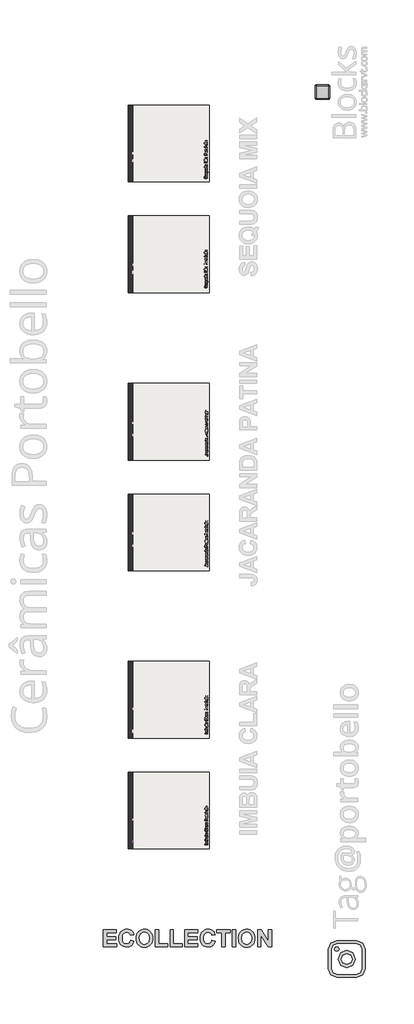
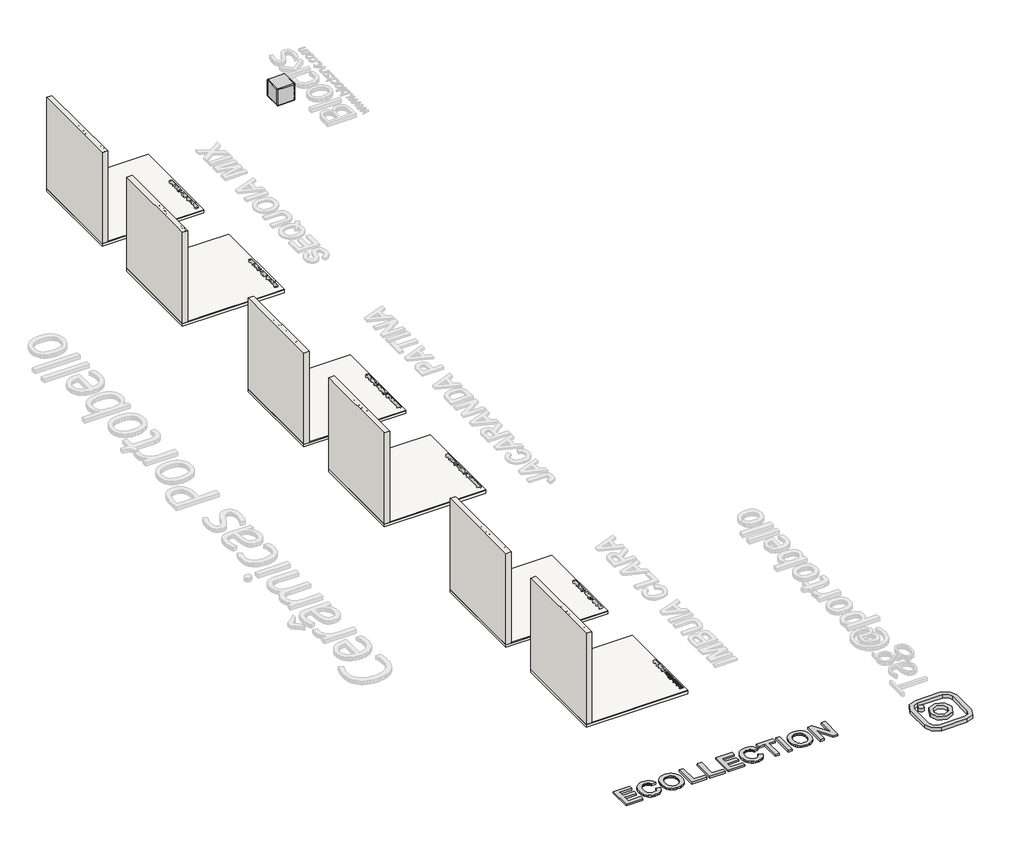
# One storey, part 1 of 10: 12 slabs, 6 walls, 4 proxies, 1 furniture element.
"""IFC4 building model written with IfcOpenShell, lengths in millimetres."""

from ifc_helpers import new_model, si_unit, frame, origin, origin_with_axes, place, context, project, spatial, polyline, outline, extrude, transform, mapped, element, save
from components import generic_models_d67f6705, branco_22256ad2

model = new_model("IFC4")

# Units and contexts
model_context = context("Model", 3, world=origin())
ifc_project = project(units=[si_unit("LENGTHUNIT", "METRE", prefix="MILLI")], contexts=[model_context])

# Site, building, storey
site = spatial("IfcSite", under=ifc_project)
building = spatial("IfcBuilding", under=site)
storey = spatial("IfcBuildingStorey", under=building, Name="PORTOBELLO - SHOWROOM", Elevation=0.0)

# Proxies
placement = place(None, origin())
generic_models_shape = generic_models_d67f6705(model_context)
element("IfcBuildingElementProxy", 1, Name="Blks_Instagram1 : Único 2", ObjectType="Blks_Instagram1 : Único 2", at=placement, inside=storey, context=model_context, shape_type="MappedRepresentation", body=[
    mapped(generic_models_shape, transform((159092.847463, -13112.6258907, 0.0), x_axis=(-1.0, 0.0, 0.0), y_axis=(0.0, -1.0, 0.0), z_axis=(0.0, 0.0, 1.0))),
])
element("IfcBuildingElementProxy", 2, Name="10mm Arial", ObjectType="10mm Arial", at=placement, inside=storey, context=model_context, shape_type="SweptSolid", body=[
    extrude(outline(polyline([(151563.1527225, -9058.0727084), (151563.1527225, -9070.6297471), (151543.1527225, -9070.6297471), (151543.1527225, -9058.0727084), (151563.1527225, -9058.0727084)])), frame((0.0, 0.0, 2548.7267943), z_axis=(0.0, 0.0, 1.0), x_axis=(1.0, 0.0, 0.0)), (0.0, 0.0, 1.0), 100.4563101),
    extrude(outline(polyline([(-9034.5282607, 2548.7267943), (-9034.5282607, 2622.4993971), (-9021.9712219, 2622.4993971), (-9021.9712219, 2610.3592912), (-9013.3382578, 2620.3043678), (-9001.0509991, 2624.0690269), (-8988.4694349, 2620.2307914), (-8981.5532534, 2609.4763744), (-8971.7553296, 2620.4208638), (-8959.3822318, 2624.0690269), (-8949.9429929, 2622.5515137), (-8942.9624321, 2617.998974), (-8938.6490157, 2610.2887805), (-8937.2112102, 2599.2983059), (-8937.2112102, 2548.7267943), (-8949.768249, 2548.7267943), (-8949.768249, 2593.9027033), (-8950.9332087, 2604.3873402), (-8955.1515889, 2609.5499508), (-8962.3252878, 2611.5119881), (-8974.6738601, 2606.4842675), (-8978.3618771, 2599.9420994), (-8979.5912161, 2590.3710362), (-8979.5912161, 2548.7267943), (-8992.1482548, 2548.7267943), (-8992.1482548, 2595.3006549), (-8995.0545226, 2607.4652862), (-9004.5826663, 2611.5119881), (-9013.877818, 2608.8141868), (-9020.0582355, 2600.9169867), (-9021.9712219, 2585.9319267), (-9021.9712219, 2548.7267943), (-9034.5282607, 2548.7267943)])), frame((151543.1527225, 0.0, 0.0), z_axis=(1.0, 0.0, 0.0), x_axis=(0.0, 1.0, 0.0)), (0.0, 0.0, 1.0), 20.0),
    extrude(outline(polyline([(-8905.8186133, 2548.7267943), (-8918.3756521, 2548.7267943), (-8918.3756521, 2649.1831044), (-8905.8186133, 2649.1831044), (-8905.8186133, 2611.9289211), (-8897.0262336, 2621.0340004), (-8886.1001384, 2624.0690269), (-8873.5185741, 2621.3344374), (-8863.7574385, 2613.6457037), (-8857.760962, 2601.6895389), (-8855.5904582, 2586.7167417), (-8857.8376041, 2569.9535854), (-8864.5790416, 2557.4823858), (-8874.4720016, 2549.7384698), (-8886.1737148, 2547.1571645), (-8897.3389333, 2550.4864965), (-8905.8186133, 2560.4744927), (-8905.8186133, 2548.7267943)]), holes=[polyline([(-8905.8186133, 2586.1281305), (-8902.385048, 2568.5678966), (-8895.8060917, 2561.9276266), (-8887.2528353, 2559.7142032), (-8880.00556, 2561.3451467), (-8873.8128797, 2566.2379773), (-8869.5638427, 2574.362038), (-8868.147497, 2585.6866721), (-8869.5055947, 2597.1768531), (-8873.5798878, 2605.2089433), (-8879.57943, 2609.9362269), (-8886.713275, 2611.5119881), (-8893.9605503, 2609.8810446), (-8900.1532306, 2604.9882141), (-8904.4022676, 2597.0113062), (-8905.8186133, 2586.1281305)])]), frame((151543.1527225, 0.0, 0.0), z_axis=(1.0, 0.0, 0.0), x_axis=(0.0, 1.0, 0.0)), (0.0, 0.0, 1.0), 20.0),
    extrude(outline(polyline([(-8794.3748942, 2548.7267943), (-8794.3748942, 2561.4064604), (-8804.2096062, 2550.7194884), (-8817.0364251, 2547.1571645), (-8828.8454372, 2549.658762), (-8836.987892, 2555.9372814), (-8840.7280256, 2565.1833822), (-8841.4637896, 2576.8575042), (-8841.4637896, 2622.4993971), (-8828.9067509, 2622.4993971), (-8828.9067509, 2582.7681416), (-8828.1464614, 2569.9658482), (-8823.1800545, 2562.4487927), (-8813.823589, 2559.7142032), (-8803.3389522, 2562.5101064), (-8796.4105079, 2570.1252637), (-8794.3748942, 2584.1170422), (-8794.3748942, 2622.4993971), (-8781.8178555, 2622.4993971), (-8781.8178555, 2548.7267943), (-8794.3748942, 2548.7267943)])), frame((151543.1527225, 0.0, 0.0), z_axis=(1.0, 0.0, 0.0), x_axis=(0.0, 1.0, 0.0)), (0.0, 0.0, 1.0), 20.0),
    extrude(outline(polyline([(151563.1527225, -8751.9948884), (151563.1527225, -8764.5519272), (151543.1527225, -8764.5519272), (151543.1527225, -8751.9948884), (151563.1527225, -8751.9948884)])), frame((0.0, 0.0, 2636.6260657), z_axis=(0.0, 0.0, 1.0), x_axis=(1.0, 0.0, 0.0)), (0.0, 0.0, 1.0), 12.5570388),
    extrude(outline(polyline([(151563.1527225, -8751.9948884), (151563.1527225, -8764.5519272), (151543.1527225, -8764.5519272), (151543.1527225, -8751.9948884), (151563.1527225, -8751.9948884)])), frame((0.0, 0.0, 2548.7267943), z_axis=(0.0, 0.0, 1.0), x_axis=(1.0, 0.0, 0.0)), (0.0, 0.0, 1.0), 73.7726028),
    extrude(outline(polyline([(-8686.0704349, 2558.1445734), (-8698.2473289, 2549.6342366), (-8711.6995472, 2547.1571645), (-8722.1933811, 2548.6470865), (-8729.9342314, 2553.1168528), (-8734.7075003, 2559.9042756), (-8736.2985899, 2568.3471674), (-8733.8950942, 2578.2799812), (-8727.5797866, 2585.4904683), (-8718.787407, 2589.6107467), (-8707.9226254, 2591.4992076), (-8686.1440113, 2595.8156897), (-8686.0704349, 2598.6115928), (-8689.5285256, 2607.8822191), (-8703.4099396, 2611.5119881), (-8716.1141311, 2609.0962297), (-8722.1719213, 2600.5245792), (-8734.7289601, 2602.0942091), (-8729.2965693, 2614.3569422), (-8718.3582113, 2621.5429039), (-8701.7912588, 2624.0690269), (-8686.5732069, 2621.8372095), (-8677.977031, 2616.2331404), (-8674.1265327, 2607.7105409), (-8673.5133961, 2596.7231319), (-8673.5133961, 2581.1004099), (-8672.875734, 2559.2850076), (-8670.3741364, 2548.7267943), (-8682.9311752, 2548.7267943), (-8686.0704349, 2558.1445734)]), holes=[polyline([(-8686.0704349, 2583.2586509), (-8706.3284701, 2579.4081527), (-8717.131938, 2577.372539), (-8722.0247685, 2574.061601), (-8723.7415512, 2569.2300842), (-8720.0014175, 2562.43653), (-8709.0262714, 2559.7142032), (-8696.3220798, 2562.7185728), (-8688.130574, 2569.9903736), (-8686.1440113, 2579.7024583), (-8686.0704349, 2583.2586509)])]), frame((151543.1527225, 0.0, 0.0), z_axis=(1.0, 0.0, 0.0), x_axis=(0.0, 1.0, 0.0)), (0.0, 0.0, 1.0), 20.0),
    extrude(outline(polyline([(-8544.8037487, 2584.4358733), (-8532.2467099, 2581.1985117), (-8538.0408514, 2566.5660054), (-8547.133668, 2555.8759677), (-8559.0775701, 2549.3368653), (-8573.4249679, 2547.1571645), (-8587.9900293, 2548.8065021), (-8599.5568523, 2553.7545149), (-8608.4228084, 2561.8295247), (-8614.8852688, 2572.8598532), (-8620.1459813, 2599.7152388), (-8618.6591249, 2614.3630736), (-8614.1985557, 2627.0120829), (-8606.9972657, 2637.2606621), (-8597.2882467, 2644.7072068), (-8585.7735402, 2649.2413524), (-8573.1551878, 2650.7527343), (-8559.3872041, 2648.7968284), (-8548.0043221, 2642.9291105), (-8539.3621609, 2633.5113315), (-8533.8163398, 2620.9052418), (-8546.3733786, 2617.9131349), (-8556.6740744, 2633.3519159), (-8573.6456971, 2638.1956955), (-8593.2905957, 2632.8246184), (-8604.3883692, 2618.4036442), (-8607.5889426, 2599.7397643), (-8603.799758, 2578.108303), (-8592.0030087, 2564.2882027), (-8574.6757667, 2559.7142032), (-8564.1941955, 2561.2715703), (-8555.4600638, 2565.9436717), (-8548.8657791, 2573.6814563), (-8544.8037487, 2584.4358733)])), frame((151543.1527225, 0.0, 0.0), z_axis=(1.0, 0.0, 0.0), x_axis=(0.0, 1.0, 0.0)), (0.0, 0.0, 1.0), 20.0),
    extrude(outline(polyline([(151563.1527225, -8503.9933727), (151563.1527225, -8516.5504115), (151543.1527225, -8516.5504115), (151543.1527225, -8503.9933727), (151563.1527225, -8503.9933727)])), frame((0.0, 0.0, 2548.7267943), z_axis=(0.0, 0.0, 1.0), x_axis=(1.0, 0.0, 0.0)), (0.0, 0.0, 1.0), 100.4563101),
    extrude(outline(polyline([(-8438.0689192, 2558.1445734), (-8450.2458132, 2549.6342366), (-8463.6980315, 2547.1571645), (-8474.1918654, 2548.6470865), (-8481.9327157, 2553.1168528), (-8486.7059846, 2559.9042756), (-8488.2970742, 2568.3471674), (-8485.8935785, 2578.2799812), (-8479.578271, 2585.4904683), (-8470.7858913, 2589.6107467), (-8459.9211097, 2591.4992076), (-8438.1424956, 2595.8156897), (-8438.0689192, 2598.6115928), (-8441.5270099, 2607.8822191), (-8455.4084239, 2611.5119881), (-8468.1126154, 2609.0962297), (-8474.1704056, 2600.5245792), (-8486.7274444, 2602.0942091), (-8481.2950536, 2614.3569422), (-8470.3566956, 2621.5429039), (-8453.7897431, 2624.0690269), (-8438.5716912, 2621.8372095), (-8429.9755153, 2616.2331404), (-8426.1250171, 2607.7105409), (-8425.5118804, 2596.7231319), (-8425.5118804, 2581.1004099), (-8424.8742183, 2559.2850076), (-8422.3726207, 2548.7267943), (-8434.9296595, 2548.7267943), (-8438.0689192, 2558.1445734)]), holes=[polyline([(-8438.0689192, 2583.2586509), (-8458.3269544, 2579.4081527), (-8469.1304223, 2577.372539), (-8474.0232528, 2574.061601), (-8475.7400355, 2569.2300842), (-8471.9999019, 2562.43653), (-8461.0247557, 2559.7142032), (-8448.3205641, 2562.7185728), (-8440.1290583, 2569.9903736), (-8438.1424956, 2579.7024583), (-8438.0689192, 2583.2586509)])]), frame((151543.1527225, 0.0, 0.0), z_axis=(1.0, 0.0, 0.0), x_axis=(0.0, 1.0, 0.0)), (0.0, 0.0, 1.0), 20.0),
    extrude(outline(polyline([(-8408.2459521, 2548.7267943), (-8408.2459521, 2622.4993971), (-8397.2585432, 2622.4993971), (-8397.2585432, 2611.5855645), (-8389.4594449, 2621.6410057), (-8381.6112956, 2624.0690269), (-8369.0052059, 2620.1940032), (-8373.1990607, 2608.9368142), (-8382.0282286, 2611.5119881), (-8389.1283511, 2609.034916), (-8393.6532996, 2602.1677855), (-8395.6889133, 2587.5015566), (-8395.6889133, 2548.7267943), (-8408.2459521, 2548.7267943)])), frame((151543.1527225, 0.0, 0.0), z_axis=(1.0, 0.0, 0.0), x_axis=(0.0, 1.0, 0.0)), (0.0, 0.0, 1.0), 20.0),
    extrude(outline(polyline([(-8314.0681613, 2558.1445734), (-8326.2450554, 2549.6342366), (-8339.6972737, 2547.1571645), (-8350.1911076, 2548.6470865), (-8357.9319579, 2553.1168528), (-8362.7052268, 2559.9042756), (-8364.2963164, 2568.3471674), (-8361.8928207, 2578.2799812), (-8355.5775131, 2585.4904683), (-8346.7851334, 2589.6107467), (-8335.9203518, 2591.4992076), (-8314.1417377, 2595.8156897), (-8314.0681613, 2598.6115928), (-8317.5262521, 2607.8822191), (-8331.407666, 2611.5119881), (-8344.1118576, 2609.0962297), (-8350.1696478, 2600.5245792), (-8362.7266866, 2602.0942091), (-8357.2942958, 2614.3569422), (-8346.3559378, 2621.5429039), (-8329.7889853, 2624.0690269), (-8314.5709334, 2621.8372095), (-8305.9747574, 2616.2331404), (-8302.1242592, 2607.7105409), (-8301.5111226, 2596.7231319), (-8301.5111226, 2581.1004099), (-8300.8734604, 2559.2850076), (-8298.3718629, 2548.7267943), (-8310.9289016, 2548.7267943), (-8314.0681613, 2558.1445734)]), holes=[polyline([(-8314.0681613, 2583.2586509), (-8334.3261965, 2579.4081527), (-8345.1296645, 2577.372539), (-8350.022495, 2574.061601), (-8351.7392776, 2569.2300842), (-8347.999144, 2562.43653), (-8337.0239978, 2559.7142032), (-8324.3198063, 2562.7185728), (-8316.1283005, 2569.9903736), (-8314.1417377, 2579.7024583), (-8314.0681613, 2583.2586509)])]), frame((151543.1527225, 0.0, 0.0), z_axis=(1.0, 0.0, 0.0), x_axis=(0.0, 1.0, 0.0)), (0.0, 0.0, 1.0), 20.0),
])
element("IfcBuildingElementProxy", 3, Name="10mm Arial", ObjectType="10mm Arial", at=placement, inside=storey, context=model_context, shape_type="SweptSolid", body=[
    extrude(outline(polyline([(154197.2239346, -9079.927129), (154096.7676245, -9079.927129), (154096.7676245, -9067.3700902), (154197.2239346, -9067.3700902), (154197.2239346, -9079.927129)])), frame((0.0, 0.0, 17.0), z_axis=(0.0, 0.0, 1.0), x_axis=(1.0, 0.0, 0.0)), (0.0, 0.0, 1.0), 20.0),
    extrude(outline(polyline([(154197.2239346, -9043.8256425), (154123.4513318, -9043.8256425), (154123.4513318, -9031.2686037), (154135.5914377, -9031.2686037), (154125.6463611, -9022.6356396), (154121.881702, -9010.3483809), (154125.7199375, -8997.7668167), (154136.4743545, -8990.8506352), (154125.5298651, -8981.0527114), (154121.881702, -8968.6796136), (154123.3992152, -8959.2403748), (154127.9517549, -8952.2598139), (154135.6619484, -8947.9463975), (154146.652423, -8946.5085921), (154197.2239346, -8946.5085921), (154197.2239346, -8959.0656308), (154152.0480256, -8959.0656308), (154141.5633887, -8960.2305905), (154136.4007781, -8964.4489707), (154134.4387408, -8971.6226696), (154139.4664614, -8983.9712419), (154146.0086295, -8987.6592589), (154155.5796927, -8988.8885979), (154197.2239346, -8988.8885979), (154197.2239346, -9001.4456367), (154150.650074, -9001.4456367), (154138.4854427, -9004.3519044), (154134.4387408, -9013.8800481), (154137.1365421, -9023.1751998), (154145.0337422, -9029.3556174), (154160.0188022, -9031.2686037), (154197.2239346, -9031.2686037), (154197.2239346, -9043.8256425)])), frame((0.0, 0.0, 17.0), z_axis=(0.0, 0.0, 1.0), x_axis=(1.0, 0.0, 0.0)), (0.0, 0.0, 1.0), 20.0),
    extrude(outline(polyline([(154197.2239346, -8915.1159951), (154197.2239346, -8927.6730339), (154096.7676245, -8927.6730339), (154096.7676245, -8915.1159951), (154134.0218078, -8915.1159951), (154124.9167285, -8906.3236154), (154121.881702, -8895.3975202), (154124.6162915, -8882.815956), (154132.3050252, -8873.0548203), (154144.26119, -8867.0583438), (154159.2339872, -8864.8878401), (154175.9971435, -8867.1349859), (154188.4683431, -8873.8764235), (154196.2122591, -8883.7693835), (154198.7935644, -8895.4710966), (154195.4642324, -8906.6363151), (154185.4762362, -8915.1159951), (154197.2239346, -8915.1159951)]), holes=[polyline([(154159.8225984, -8915.1159951), (154177.3828323, -8911.6824298), (154184.0231023, -8905.1034735), (154186.2365257, -8896.5502171), (154184.6055822, -8889.3029418), (154179.7127516, -8883.1102615), (154171.5886909, -8878.8612245), (154160.2640568, -8877.4448788), (154148.7738758, -8878.8029765), (154140.7417856, -8882.8772696), (154136.014502, -8888.8768118), (154134.4387408, -8896.0106568), (154136.0696843, -8903.2579322), (154140.9625148, -8909.4506124), (154148.9394227, -8913.6996494), (154159.8225984, -8915.1159951)])]), frame((0.0, 0.0, 17.0), z_axis=(0.0, 0.0, 1.0), x_axis=(1.0, 0.0, 0.0)), (0.0, 0.0, 1.0), 20.0),
    extrude(outline(polyline([(154197.2239346, -8803.6722761), (154184.5442685, -8803.6722761), (154195.2312405, -8813.5069881), (154198.7935644, -8826.333807), (154196.2919669, -8838.142819), (154190.0134475, -8846.2852738), (154180.7673467, -8850.0254074), (154169.0932247, -8850.7611714), (154123.4513318, -8850.7611714), (154123.4513318, -8838.2041327), (154163.1825873, -8838.2041327), (154175.9848807, -8837.4438432), (154183.5019362, -8832.4774363), (154186.2365257, -8823.1209709), (154183.4406225, -8812.636334), (154175.8254652, -8805.7078898), (154161.8336867, -8803.6722761), (154123.4513318, -8803.6722761), (154123.4513318, -8791.1152373), (154197.2239346, -8791.1152373), (154197.2239346, -8803.6722761)])), frame((0.0, 0.0, 17.0), z_axis=(0.0, 0.0, 1.0), x_axis=(1.0, 0.0, 0.0)), (0.0, 0.0, 1.0), 20.0),
    extrude(outline(polyline([(154109.3246632, -8773.849309), (154096.7676245, -8773.849309), (154096.7676245, -8761.2922702), (154109.3246632, -8761.2922702), (154109.3246632, -8773.849309)])), frame((0.0, 0.0, 17.0), z_axis=(0.0, 0.0, 1.0), x_axis=(1.0, 0.0, 0.0)), (0.0, 0.0, 1.0), 20.0),
    extrude(outline(polyline([(154197.2239346, -8773.849309), (154123.4513318, -8773.849309), (154123.4513318, -8761.2922702), (154197.2239346, -8761.2922702), (154197.2239346, -8773.849309)])), frame((0.0, 0.0, 17.0), z_axis=(0.0, 0.0, 1.0), x_axis=(1.0, 0.0, 0.0)), (0.0, 0.0, 1.0), 20.0),
    extrude(outline(polyline([(154187.8061555, -8695.3678167), (154196.3164923, -8707.5447107), (154198.7935644, -8720.996929), (154197.3036424, -8731.4907629), (154192.8338761, -8739.2316132), (154186.0464533, -8744.0048821), (154177.6035615, -8745.5959718), (154167.6707477, -8743.192476), (154160.4602606, -8736.8771685), (154156.3399822, -8728.0847888), (154154.4515213, -8717.2200072), (154150.1350392, -8695.4413931), (154147.3391361, -8695.3678167), (154138.0685098, -8698.8259074), (154134.4387408, -8712.7073214), (154136.8544992, -8725.4115129), (154145.4261497, -8731.4693031), (154143.8565198, -8744.0263419), (154131.5937867, -8738.5939511), (154124.407825, -8727.6555931), (154121.881702, -8711.0886406), (154124.1135194, -8695.8705887), (154129.7175885, -8687.2744128), (154138.240188, -8683.4239146), (154149.227597, -8682.8107779), (154164.850319, -8682.8107779), (154186.6657213, -8682.1731158), (154197.2239346, -8679.6715182), (154197.2239346, -8692.228557), (154187.8061555, -8695.3678167)]), holes=[polyline([(154162.692078, -8695.3678167), (154166.5425762, -8715.6258519), (154168.5781899, -8726.4293198), (154171.8891279, -8731.3221503), (154176.7206447, -8733.038933), (154183.5141989, -8729.2987994), (154186.2365257, -8718.3236532), (154183.2321561, -8705.6194616), (154175.9603553, -8697.4279558), (154166.2482706, -8695.4413931), (154162.692078, -8695.3678167)])]), frame((0.0, 0.0, 17.0), z_axis=(0.0, 0.0, 1.0), x_axis=(1.0, 0.0, 0.0)), (0.0, 0.0, 1.0), 20.0),
    extrude(outline(polyline([(154161.5148556, -8554.1011305), (154164.7522172, -8541.5440918), (154179.3847235, -8547.3382332), (154190.0747612, -8556.4310498), (154196.6138636, -8568.3749519), (154198.7935644, -8582.7223498), (154197.1442268, -8597.2874111), (154192.196214, -8608.8542341), (154184.1212042, -8617.7201902), (154173.0908757, -8624.1826506), (154146.2354901, -8629.4433631), (154131.5876553, -8627.9565067), (154118.938646, -8623.4959376), (154108.6900668, -8616.2946475), (154101.2435221, -8606.5856285), (154096.7093765, -8595.0709221), (154095.1979946, -8582.4525696), (154097.1539005, -8568.684586), (154103.0216184, -8557.3017039), (154112.4393974, -8548.6595427), (154125.0454871, -8543.1137216), (154128.037594, -8555.6707604), (154112.598813, -8565.9714562), (154107.7550334, -8582.943079), (154113.1261105, -8602.5879775), (154127.5470847, -8613.685751), (154146.2109646, -8616.8863244), (154167.8424259, -8613.0971398), (154181.6625262, -8601.3003905), (154186.2365257, -8583.9731485), (154184.6791586, -8573.4915774), (154180.0070572, -8564.7574457), (154172.2692726, -8558.1631609), (154161.5148556, -8554.1011305)])), frame((0.0, 0.0, 17.0), z_axis=(0.0, 0.0, 1.0), x_axis=(1.0, 0.0, 0.0)), (0.0, 0.0, 1.0), 20.0),
    extrude(outline(polyline([(154197.2239346, -8525.8477933), (154096.7676245, -8525.8477933), (154096.7676245, -8513.2907545), (154197.2239346, -8513.2907545), (154197.2239346, -8525.8477933)])), frame((0.0, 0.0, 17.0), z_axis=(0.0, 0.0, 1.0), x_axis=(1.0, 0.0, 0.0)), (0.0, 0.0, 1.0), 20.0),
    extrude(outline(polyline([(154187.8061555, -8447.366301), (154196.3164923, -8459.543195), (154198.7935644, -8472.9954133), (154197.3036424, -8483.4892472), (154192.8338761, -8491.2300976), (154186.0464533, -8496.0033664), (154177.6035615, -8497.5944561), (154167.6707477, -8495.1909604), (154160.4602606, -8488.8756528), (154156.3399822, -8480.0832731), (154154.4515213, -8469.2184915), (154150.1350392, -8447.4398774), (154147.3391361, -8447.366301), (154138.0685098, -8450.8243917), (154134.4387408, -8464.7058057), (154136.8544992, -8477.4099973), (154145.4261497, -8483.4677875), (154143.8565198, -8496.0248262), (154131.5937867, -8490.5924354), (154124.407825, -8479.6540774), (154121.881702, -8463.0871249), (154124.1135194, -8447.8690731), (154129.7175885, -8439.2728971), (154138.240188, -8435.4223989), (154149.227597, -8434.8092622), (154164.850319, -8434.8092622), (154186.6657213, -8434.1716001), (154197.2239346, -8431.6700025), (154197.2239346, -8444.2270413), (154187.8061555, -8447.366301)]), holes=[polyline([(154162.692078, -8447.366301), (154166.5425762, -8467.6243362), (154168.5781899, -8478.4278041), (154171.8891279, -8483.3206347), (154176.7206447, -8485.0374173), (154183.5141989, -8481.2972837), (154186.2365257, -8470.3221375), (154183.2321561, -8457.6179459), (154175.9603553, -8449.4264402), (154166.2482706, -8447.4398774), (154162.692078, -8447.366301)])]), frame((0.0, 0.0, 17.0), z_axis=(0.0, 0.0, 1.0), x_axis=(1.0, 0.0, 0.0)), (0.0, 0.0, 1.0), 20.0),
    extrude(outline(polyline([(154197.2239346, -8417.5433339), (154123.4513318, -8417.5433339), (154123.4513318, -8406.555925), (154134.3651644, -8406.555925), (154124.3097232, -8398.7568267), (154121.881702, -8390.9086775), (154125.7567257, -8378.3025878), (154137.0139147, -8382.4964425), (154134.4387408, -8391.3256104), (154136.9158129, -8398.4257329), (154143.7829434, -8402.9506814), (154158.4491723, -8404.9862952), (154197.2239346, -8404.9862952), (154197.2239346, -8417.5433339)])), frame((0.0, 0.0, 17.0), z_axis=(0.0, 0.0, 1.0), x_axis=(1.0, 0.0, 0.0)), (0.0, 0.0, 1.0), 20.0),
    extrude(outline(polyline([(154187.8061555, -8323.3655432), (154196.3164923, -8335.5424372), (154198.7935644, -8348.9946555), (154197.3036424, -8359.4884894), (154192.8338761, -8367.2293397), (154186.0464533, -8372.0026086), (154177.6035615, -8373.5936982), (154167.6707477, -8371.1902025), (154160.4602606, -8364.8748949), (154156.3399822, -8356.0825153), (154154.4515213, -8345.2177337), (154150.1350392, -8323.4391196), (154147.3391361, -8323.3655432), (154138.0685098, -8326.8236339), (154134.4387408, -8340.7050479), (154136.8544992, -8353.4092394), (154145.4261497, -8359.4670296), (154143.8565198, -8372.0240684), (154131.5937867, -8366.5916776), (154124.407825, -8355.6533196), (154121.881702, -8339.0863671), (154124.1135194, -8323.8683152), (154129.7175885, -8315.2721393), (154138.240188, -8311.421641), (154149.227597, -8310.8085044), (154164.850319, -8310.8085044), (154186.6657213, -8310.1708423), (154197.2239346, -8307.6692447), (154197.2239346, -8320.2262835), (154187.8061555, -8323.3655432)]), holes=[polyline([(154162.692078, -8323.3655432), (154166.5425762, -8343.6235784), (154168.5781899, -8354.4270463), (154171.8891279, -8359.3198768), (154176.7206447, -8361.0366595), (154183.5141989, -8357.2965258), (154186.2365257, -8346.3213797), (154183.2321561, -8333.6171881), (154175.9603553, -8325.4256823), (154166.2482706, -8323.4391196), (154162.692078, -8323.3655432)])]), frame((0.0, 0.0, 17.0), z_axis=(0.0, 0.0, 1.0), x_axis=(1.0, 0.0, 0.0)), (0.0, 0.0, 1.0), 20.0),
])
element("IfcBuildingElementProxy", 4, Name="600mm Arial", ObjectType="600mm Arial", at=placement, inside=storey, context=model_context, shape_type="SweptSolid", body=[
    extrude(outline(polyline([(150513.5709857, -12688.7002712), (150513.5709857, -12076.5446312), (150970.2585267, -12076.5446312), (150970.2585267, -12183.4289493), (150630.17206, -12183.4289493), (150630.17206, -12319.463536), (150950.8250143, -12319.463536), (150950.8250143, -12426.3478541), (150630.17206, -12426.3478541), (150630.17206, -12581.8159531), (150979.9752828, -12581.8159531), (150979.9752828, -12688.7002712), (150513.5709857, -12688.7002712)])), origin_with_axes(), (0.0, 0.0, 1.0), 50.0),
    extrude(outline(polyline([(151475.5298485, -12455.4981226), (151592.1309228, -12494.3651474), (151576.0280564, -12540.4675497), (151555.3514824, -12580.2407758), (151530.1012009, -12613.6848258), (151500.277212, -12640.7996997), (151466.0028727, -12661.7561997), (151427.4015405, -12676.7251283), (151384.4732153, -12685.7064855), (151337.2178971, -12688.7002712), (151278.8319588, -12683.5856896), (151225.8927178, -12668.2419447), (151178.4001741, -12642.6690365), (151136.3543278, -12606.8669652), (151101.9471423, -12562.1926603), (151077.3705812, -12510.0030519), (151062.6246446, -12450.2981398), (151057.7093324, -12383.0779242), (151062.6673452, -12312.1949469), (151077.5413836, -12249.700263), (151102.3314476, -12195.5938726), (151118.4449892, -12171.6862874), (151137.0375372, -12149.8757756), (151179.8282716, -12113.5423191), (151228.87227, -12087.5898502), (151284.1695324, -12072.0183688), (151345.7200588, -12066.827875), (151399.5417786, -12071.1074229), (151448.0496474, -12083.9460666), (151491.2436652, -12105.3438061), (151529.1238319, -12135.3006413), (151548.8325259, -12157.7042169), (151565.9032723, -12184.5296756), (151580.3360713, -12215.7770175), (151592.1309228, -12251.4462426), (151475.5298485, -12270.879755), (151468.1806028, -12249.5247161), (151457.6715134, -12230.5514212), (151444.0025805, -12213.9598702), (151427.1738041, -12199.7500632), (151407.7735032, -12188.3584951), (151386.3899973, -12180.2216606), (151363.0232863, -12175.33956), (151337.6733701, -12173.7121931), (151303.0242146, -12176.6680228), (151271.8005952, -12185.5355117), (151244.002512, -12200.3146599), (151219.6299648, -12221.0054674), (151199.8026581, -12248.3101216), (151185.6402962, -12282.9308101), (151177.142879, -12324.8675327), (151174.3104066, -12374.1202895), (151177.0574779, -12426.2529639), (151185.2986915, -12470.3009934), (151199.0340475, -12506.2643781), (151218.263546, -12534.143118), (151241.8959496, -12554.9999834), (151268.8400211, -12569.8977443), (151299.0957604, -12578.8364009), (151332.6631677, -12581.8159531), (151357.6525011, -12579.9134046), (151380.8484098, -12574.2057593), (151402.2508938, -12564.693017), (151421.859953, -12551.3751778), (151439.2485817, -12533.9675712), (151453.9897738, -12512.1855264), (151466.0835294, -12486.0290436), (151475.5298485, -12455.4981226)])), origin_with_axes(), (0.0, 0.0, 1.0), 50.0),
    extrude(outline(polyline([(151669.8649723, -12386.4180591), (151671.5824849, -12341.610908), (151676.7350226, -12300.5614087), (151685.3225855, -12263.2695612), (151697.3451734, -12229.7353655), (151721.5801298, -12185.4975556), (151753.2924337, -12146.0042555), (151790.4324569, -12113.6846544), (151830.9505711, -12090.9679412), (151860.1198177, -12080.4066622), (151891.4525608, -12072.8628916), (151924.9488004, -12068.3366292), (151960.6085365, -12066.827875), (152023.7105176, -12072.0610694), (152080.1701849, -12087.7606525), (152129.9875384, -12113.9266244), (152173.1625781, -12150.558985), (152191.8440857, -12172.5130183), (152208.0347256, -12196.509563), (152232.9434023, -12250.6301869), (152247.8886084, -12312.9208569), (152252.8703437, -12383.3815728), (152247.9265645, -12453.3630932), (152233.0952267, -12515.2789468), (152208.3763303, -12569.1291337), (152192.3090477, -12593.0296022), (152173.7698754, -12614.9136539), (152130.8795063, -12651.4463798), (152081.3088673, -12677.541184), (152025.0579584, -12693.1980665), (151962.1267796, -12698.4170274), (151898.5313695, -12693.2217891), (151841.8060096, -12677.6360742), (151791.9507, -12651.6598827), (151748.9654407, -12615.2932147), (151714.3589858, -12569.8170877), (151689.6400894, -12516.5125194), (151674.8087516, -12455.3795099), (151669.8649723, -12386.4180591)]), holes=[polyline([(151786.4660466, -12382.1669783), (151789.5642116, -12430.5894459), (151798.8587064, -12472.7681385), (151814.3495311, -12508.7030562), (151836.0366856, -12538.3941989), (151862.4968171, -12561.6422972), (151892.3065725, -12578.2480817), (151925.4659519, -12588.2115524), (151961.9749553, -12591.5327093), (151998.4460026, -12588.2352749), (152031.4915137, -12578.3429719), (152061.1114888, -12561.8558001), (152087.3059277, -12538.7737597), (152108.7273897, -12509.0968505), (152124.028434, -12472.8250726), (152133.2090606, -12429.9584261), (152136.2692695, -12380.4969108), (152133.2897173, -12331.7233494), (152124.3510607, -12289.5541458), (152109.4532997, -12253.9892999), (152088.5964344, -12225.0288117), (152062.8052788, -12202.5777911), (152033.1046471, -12186.5413478), (151999.4945393, -12176.9194818), (151961.9749553, -12173.7121931), (151924.4174153, -12176.9574379), (151890.6934392, -12186.6931721), (151860.8030271, -12202.9193958), (151834.7461789, -12225.636109), (151813.623621, -12254.8907568), (151798.5360797, -12290.7307843), (151789.4835549, -12333.1561914), (151786.4660466, -12382.1669783)])]), origin_with_axes(), (0.0, 0.0, 1.0), 50.0),
    extrude(outline(polyline([(152350.0379056, -12688.7002712), (152350.0379056, -12076.5446312), (152466.6389799, -12076.5446312), (152466.6389799, -12581.8159531), (152777.575178, -12581.8159531), (152777.575178, -12688.7002712), (152350.0379056, -12688.7002712)])), origin_with_axes(), (0.0, 0.0, 1.0), 50.0),
    extrude(outline(polyline([(152865.0259837, -12688.7002712), (152865.0259837, -12076.5446312), (152981.627058, -12076.5446312), (152981.627058, -12581.8159531), (153292.5632561, -12581.8159531), (153292.5632561, -12688.7002712), (152865.0259837, -12688.7002712)])), origin_with_axes(), (0.0, 0.0, 1.0), 50.0),
    extrude(outline(polyline([(153380.0140618, -12688.7002712), (153380.0140618, -12076.5446312), (153836.7016027, -12076.5446312), (153836.7016027, -12183.4289493), (153496.6151361, -12183.4289493), (153496.6151361, -12319.463536), (153817.2680903, -12319.463536), (153817.2680903, -12426.3478541), (153496.6151361, -12426.3478541), (153496.6151361, -12581.8159531), (153846.4183589, -12581.8159531), (153846.4183589, -12688.7002712), (153380.0140618, -12688.7002712)])), origin_with_axes(), (0.0, 0.0, 1.0), 50.0),
    extrude(outline(polyline([(154341.9729246, -12455.4981226), (154458.5739989, -12494.3651474), (154442.4711324, -12540.4675497), (154421.7945585, -12580.2407758), (154396.544277, -12613.6848258), (154366.720288, -12640.7996997), (154332.4459488, -12661.7561997), (154293.8446166, -12676.7251283), (154250.9162914, -12685.7064855), (154203.6609732, -12688.7002712), (154145.2750349, -12683.5856896), (154092.3357939, -12668.2419447), (154044.8432502, -12642.6690365), (154002.7974038, -12606.8669652), (153968.3902184, -12562.1926603), (153943.8136573, -12510.0030519), (153929.0677206, -12450.2981398), (153924.1524084, -12383.0779242), (153929.1104212, -12312.1949469), (153943.9844596, -12249.700263), (153968.7745237, -12195.5938726), (153984.8880653, -12171.6862874), (154003.4806133, -12149.8757756), (154046.2713477, -12113.5423191), (154095.3153461, -12087.5898502), (154150.6126085, -12072.0183688), (154212.1631349, -12066.827875), (154265.9848547, -12071.1074229), (154314.4927235, -12083.9460666), (154357.6867413, -12105.3438061), (154395.566908, -12135.3006413), (154415.2756019, -12157.7042169), (154432.3463484, -12184.5296756), (154446.7791474, -12215.7770175), (154458.5739989, -12251.4462426), (154341.9729246, -12270.879755), (154334.6236788, -12249.5247161), (154324.1145895, -12230.5514212), (154310.4456566, -12213.9598702), (154293.6168801, -12199.7500632), (154274.2165793, -12188.3584951), (154252.8330734, -12180.2216606), (154229.4663623, -12175.33956), (154204.1164462, -12173.7121931), (154169.4672907, -12176.6680228), (154138.2436713, -12185.5355117), (154110.445588, -12200.3146599), (154086.0730409, -12221.0054674), (154066.2457342, -12248.3101216), (154052.0833723, -12282.9308101), (154043.5859551, -12324.8675327), (154040.7534827, -12374.1202895), (154043.5005539, -12426.2529639), (154051.7417675, -12470.3009934), (154065.4771236, -12506.2643781), (154084.706622, -12534.143118), (154108.3390256, -12554.9999834), (154135.2830971, -12569.8977443), (154165.5388365, -12578.8364009), (154199.1062438, -12581.8159531), (154224.0955772, -12579.9134046), (154247.2914859, -12574.2057593), (154268.6939698, -12564.693017), (154288.3030291, -12551.3751778), (154305.6916577, -12533.9675712), (154320.4328499, -12512.1855264), (154332.5266055, -12486.0290436), (154341.9729246, -12455.4981226)])), origin_with_axes(), (0.0, 0.0, 1.0), 50.0),
    extrude(outline(polyline([(154691.7761475, -12688.7002712), (154691.7761475, -12183.4289493), (154516.874536, -12183.4289493), (154516.874536, -12076.5446312), (154983.2788332, -12076.5446312), (154983.2788332, -12183.4289493), (154808.3772217, -12183.4289493), (154808.3772217, -12688.7002712), (154691.7761475, -12688.7002712)])), origin_with_axes(), (0.0, 0.0, 1.0), 50.0),
    extrude(outline(polyline([(155061.0128827, -12688.7002712), (155061.0128827, -12076.5446312), (155177.613957, -12076.5446312), (155177.613957, -12688.7002712), (155061.0128827, -12688.7002712)])), origin_with_axes(), (0.0, 0.0, 1.0), 50.0),
    extrude(outline(polyline([(155274.7815189, -12386.4180591), (155276.4990314, -12341.610908), (155281.6515691, -12300.5614087), (155290.239132, -12263.2695612), (155302.26172, -12229.7353655), (155326.4966763, -12185.4975556), (155358.2089802, -12146.0042555), (155395.3490034, -12113.6846544), (155435.8671176, -12090.9679412), (155465.0363642, -12080.4066622), (155496.3691073, -12072.8628916), (155529.8653469, -12068.3366292), (155565.525083, -12066.827875), (155628.6270641, -12072.0610694), (155685.0867314, -12087.7606525), (155734.9040849, -12113.9266244), (155778.0791246, -12150.558985), (155796.7606322, -12172.5130183), (155812.9512721, -12196.509563), (155837.8599489, -12250.6301869), (155852.8051549, -12312.9208569), (155857.7868903, -12383.3815728), (155852.843111, -12453.3630932), (155838.0117732, -12515.2789468), (155813.2928768, -12569.1291337), (155797.2255942, -12593.0296022), (155778.6864219, -12614.9136539), (155735.7960528, -12651.4463798), (155686.2254138, -12677.541184), (155629.9745049, -12693.1980665), (155567.0433261, -12698.4170274), (155503.447916, -12693.2217891), (155446.7225561, -12677.6360742), (155396.8672465, -12651.6598827), (155353.8819872, -12615.2932147), (155319.2755323, -12569.8170877), (155294.5566359, -12516.5125194), (155279.7252981, -12455.3795099), (155274.7815189, -12386.4180591)]), holes=[polyline([(155391.3825931, -12382.1669783), (155394.4807581, -12430.5894459), (155403.7752529, -12472.7681385), (155419.2660776, -12508.7030562), (155440.9532321, -12538.3941989), (155467.4133636, -12561.6422972), (155497.2231191, -12578.2480817), (155530.3824985, -12588.2115524), (155566.8915018, -12591.5327093), (155603.3625491, -12588.2352749), (155636.4080603, -12578.3429719), (155666.0280353, -12561.8558001), (155692.2224742, -12538.7737597), (155713.6439362, -12509.0968505), (155728.9449805, -12472.8250726), (155738.1256071, -12429.9584261), (155741.185816, -12380.4969108), (155738.2062638, -12331.7233494), (155729.2676072, -12289.5541458), (155714.3698463, -12253.9892999), (155693.5129809, -12225.0288117), (155667.7218253, -12202.5777911), (155638.0211936, -12186.5413478), (155604.4110858, -12176.9194818), (155566.8915018, -12173.7121931), (155529.3339618, -12176.9574379), (155495.6099857, -12186.6931721), (155465.7195736, -12202.9193958), (155439.6627255, -12225.636109), (155418.5401676, -12254.8907568), (155403.4526262, -12290.7307843), (155394.4001014, -12333.1561914), (155391.3825931, -12382.1669783)])]), origin_with_axes(), (0.0, 0.0, 1.0), 50.0),
    extrude(outline(polyline([(155954.9544522, -12688.7002712), (155954.9544522, -12076.5446312), (156077.1730261, -12076.5446312), (156333.9079436, -12488.5958234), (156333.9079436, -12076.5446312), (156450.5090179, -12076.5446312), (156450.5090179, -12688.7002712), (156324.494836, -12688.7002712), (156071.5555264, -12282.7220516), (156071.5555264, -12688.7002712), (155954.9544522, -12688.7002712)])), origin_with_axes(), (0.0, 0.0, 1.0), 50.0),
])

# Furniture
branco_shape = branco_22256ad2(model_context)
element("IfcFurniture", 5, ObjectType="Blks_Mob_Blocks Revit_Cubo : Branco", at=placement, inside=storey, context=model_context, shape_type="MappedRepresentation", body=[
    mapped(branco_shape, transform((158237.8547937, 17440.1290077, 0.0), x_axis=(1.0, 0.0, 0.0), y_axis=(0.0, 1.0, 0.0), z_axis=(0.0, 0.0, 1.0))),
])

# Slabs
element("IfcSlab", 6, ObjectType="PORTOBELLO - ECOLLECTION - IMBUIA CLARA - 20X120 - NAT - RET - COMPOSIÇÃO 01", at=placement, inside=storey, context=model_context, shape_type="SweptSolid", body=[
    extrude(outline(polyline([(154243.1527225, -9226.1599126), (151543.1527225, -9226.1599126), (151543.1527225, -6526.1599126), (154243.1527225, -6526.1599126), (154243.1527225, -9226.1599126)])), origin_with_axes(), (0.0, 0.0, 1.0), 17.0),
])
element("IfcSlab", 7, ObjectType="PORTOBELLO - LAJE", at=placement, inside=storey, context=model_context, shape_type="SweptSolid", body=[
    extrude(outline(polyline([(154243.1527225, -6526.1599126), (154243.1527225, -9226.1599126), (151393.1527225, -9226.1599126), (151393.1527225, -6526.1599126), (154243.1527225, -6526.1599126)])), frame((0.0, 0.0, -80.0), z_axis=(0.0, 0.0, 1.0), x_axis=(1.0, 0.0, 0.0)), (0.0, 0.0, 1.0), 80.0),
])
element("IfcSlab", 8, ObjectType="PORTOBELLO - ECOLLECTION - IMBUIA CLARA - 20X120 - NAT - RET - COMPOSIÇÃO 02", at=placement, inside=storey, context=model_context, shape_type="SweptSolid", body=[
    extrude(outline(polyline([(154243.1527225, -5326.1599126), (151543.1527225, -5326.1599126), (151543.1527225, -2626.1599126), (154243.1527225, -2626.1599126), (154243.1527225, -5326.1599126)])), origin_with_axes(), (0.0, 0.0, 1.0), 17.0),
])
element("IfcSlab", 9, ObjectType="PORTOBELLO - LAJE", at=placement, inside=storey, context=model_context, shape_type="SweptSolid", body=[
    extrude(outline(polyline([(154243.1527225, -2626.1599126), (154243.1527225, -5326.1599126), (151393.1527225, -5326.1599126), (151393.1527225, -2626.1599126), (154243.1527225, -2626.1599126)])), frame((0.0, 0.0, -80.0), z_axis=(0.0, 0.0, 1.0), x_axis=(1.0, 0.0, 0.0)), (0.0, 0.0, 1.0), 80.0),
])
element("IfcSlab", 10, ObjectType="PORTOBELLO - ECOLLECTION - JACARANDA PATINA - 20X120 - NAT - RET - COMPOSIÇÃO 01", at=placement, inside=storey, context=model_context, shape_type="SweptSolid", body=[
    extrude(outline(polyline([(154243.1527225, 573.8400874), (151543.1527225, 573.8400874), (151543.1527225, 3273.8400874), (154243.1527225, 3273.8400874), (154243.1527225, 573.8400874)])), origin_with_axes(), (0.0, 0.0, 1.0), 17.0),
])
element("IfcSlab", 11, ObjectType="PORTOBELLO - LAJE", at=placement, inside=storey, context=model_context, shape_type="SweptSolid", body=[
    extrude(outline(polyline([(154243.1527225, 3273.8400874), (154243.1527225, 573.8400874), (151393.1527225, 573.8400874), (151393.1527225, 3273.8400874), (154243.1527225, 3273.8400874)])), frame((0.0, 0.0, -80.0), z_axis=(0.0, 0.0, 1.0), x_axis=(1.0, 0.0, 0.0)), (0.0, 0.0, 1.0), 80.0),
])
element("IfcSlab", 12, ObjectType="PORTOBELLO - ECOLLECTION - JACARANDA PATINA - 20X120 - NAT - RET - COMPOSIÇÃO 02", at=placement, inside=storey, context=model_context, shape_type="SweptSolid", body=[
    extrude(outline(polyline([(154243.1527225, 4473.8400874), (151543.1527225, 4473.8400874), (151543.1527225, 7173.8400874), (154243.1527225, 7173.8400874), (154243.1527225, 4473.8400874)])), origin_with_axes(), (0.0, 0.0, 1.0), 17.0),
])
element("IfcSlab", 13, ObjectType="PORTOBELLO - LAJE", at=placement, inside=storey, context=model_context, shape_type="SweptSolid", body=[
    extrude(outline(polyline([(154243.1527225, 7173.8400874), (154243.1527225, 4473.8400874), (151393.1527225, 4473.8400874), (151393.1527225, 7173.8400874), (154243.1527225, 7173.8400874)])), frame((0.0, 0.0, -80.0), z_axis=(0.0, 0.0, 1.0), x_axis=(1.0, 0.0, 0.0)), (0.0, 0.0, 1.0), 80.0),
])
element("IfcSlab", 14, ObjectType="PORTOBELLO - ECOLLECTION - SEQUOIA MIX - 20X120 - NAT - RET - COMPOSIÇÃO 01", at=placement, inside=storey, context=model_context, shape_type="SweptSolid", body=[
    extrude(outline(polyline([(154243.1527225, 10373.8400874), (151543.1527225, 10373.8400874), (151543.1527225, 13073.8400874), (154243.1527225, 13073.8400874), (154243.1527225, 10373.8400874)])), origin_with_axes(), (0.0, 0.0, 1.0), 17.0),
])
element("IfcSlab", 15, ObjectType="PORTOBELLO - LAJE", at=placement, inside=storey, context=model_context, shape_type="SweptSolid", body=[
    extrude(outline(polyline([(154243.1527225, 13073.8400874), (154243.1527225, 10373.8400874), (151393.1527225, 10373.8400874), (151393.1527225, 13073.8400874), (154243.1527225, 13073.8400874)])), frame((0.0, 0.0, -80.0), z_axis=(0.0, 0.0, 1.0), x_axis=(1.0, 0.0, 0.0)), (0.0, 0.0, 1.0), 80.0),
])
element("IfcSlab", 16, ObjectType="PORTOBELLO - ECOLLECTION - SEQUOIA MIX - 20X120 - NAT - RET - COMPOSIÇÃO 02", at=placement, inside=storey, context=model_context, shape_type="SweptSolid", body=[
    extrude(outline(polyline([(154243.1527225, 14273.8400874), (151543.1527225, 14273.8400874), (151543.1527225, 16973.8400874), (154243.1527225, 16973.8400874), (154243.1527225, 14273.8400874)])), origin_with_axes(), (0.0, 0.0, 1.0), 17.0),
])
element("IfcSlab", 17, ObjectType="PORTOBELLO - LAJE", at=placement, inside=storey, context=model_context, shape_type="SweptSolid", body=[
    extrude(outline(polyline([(154243.1527225, 16973.8400874), (154243.1527225, 14273.8400874), (151393.1527225, 14273.8400874), (151393.1527225, 16973.8400874), (154243.1527225, 16973.8400874)])), frame((0.0, 0.0, -80.0), z_axis=(0.0, 0.0, 1.0), x_axis=(1.0, 0.0, 0.0)), (0.0, 0.0, 1.0), 80.0),
])

# Walls
element("IfcWall", 18, ObjectType="PORTOBELLO - ECOLLECTION - IMBUIA CLARA - 20X120 - NAT - RET - COMPOSIÇÃO 01", at=placement, inside=storey, context=model_context, shape_type="SweptSolid", body=[
    extrude(outline(polyline([(151393.1527225, -9226.1599126), (151393.1527225, -6526.1599126), (151543.1527225, -6526.1599126), (151543.1527225, -9226.1599126), (151393.1527225, -9226.1599126)])), origin_with_axes(), (0.0, 0.0, 1.0), 2700.0),
])
element("IfcWall", 19, ObjectType="PORTOBELLO - ECOLLECTION - IMBUIA CLARA - 20X120 - NAT - RET - COMPOSIÇÃO 02", at=placement, inside=storey, context=model_context, shape_type="SweptSolid", body=[
    extrude(outline(polyline([(151393.1527225, -5326.1599126), (151393.1527225, -2626.1599126), (151543.1527225, -2626.1599126), (151543.1527225, -5326.1599126), (151393.1527225, -5326.1599126)])), origin_with_axes(), (0.0, 0.0, 1.0), 2700.0),
])
element("IfcWall", 20, ObjectType="PORTOBELLO - ECOLLECTION - JACARANDA PATINA - 20X120 - NAT - RET - COMPOSIÇÃO 01", at=placement, inside=storey, context=model_context, shape_type="SweptSolid", body=[
    extrude(outline(polyline([(151393.1527225, 573.8400874), (151393.1527225, 3273.8400874), (151543.1527225, 3273.8400874), (151543.1527225, 573.8400874), (151393.1527225, 573.8400874)])), origin_with_axes(), (0.0, 0.0, 1.0), 2700.0),
])
element("IfcWall", 21, ObjectType="PORTOBELLO - ECOLLECTION - JACARANDA PATINA - 20X120 - NAT - RET - COMPOSIÇÃO 02", at=placement, inside=storey, context=model_context, shape_type="SweptSolid", body=[
    extrude(outline(polyline([(151393.1527225, 4473.8400874), (151393.1527225, 7173.8400874), (151543.1527225, 7173.8400874), (151543.1527225, 4473.8400874), (151393.1527225, 4473.8400874)])), origin_with_axes(), (0.0, 0.0, 1.0), 2700.0),
])
element("IfcWall", 22, ObjectType="PORTOBELLO - ECOLLECTION - SEQUOIA MIX - 20X120 - NAT - RET - COMPOSIÇÃO 01", at=placement, inside=storey, context=model_context, shape_type="SweptSolid", body=[
    extrude(outline(polyline([(151393.1527225, 10373.8400874), (151393.1527225, 13073.8400874), (151543.1527225, 13073.8400874), (151543.1527225, 10373.8400874), (151393.1527225, 10373.8400874)])), origin_with_axes(), (0.0, 0.0, 1.0), 2700.0),
])
element("IfcWall", 23, ObjectType="PORTOBELLO - ECOLLECTION - SEQUOIA MIX - 20X120 - NAT - RET - COMPOSIÇÃO 02", at=placement, inside=storey, context=model_context, shape_type="SweptSolid", body=[
    extrude(outline(polyline([(151393.1527225, 14273.8400874), (151393.1527225, 16973.8400874), (151543.1527225, 16973.8400874), (151543.1527225, 14273.8400874), (151393.1527225, 14273.8400874)])), origin_with_axes(), (0.0, 0.0, 1.0), 2700.0),
])

save(model, "model.ifc")
